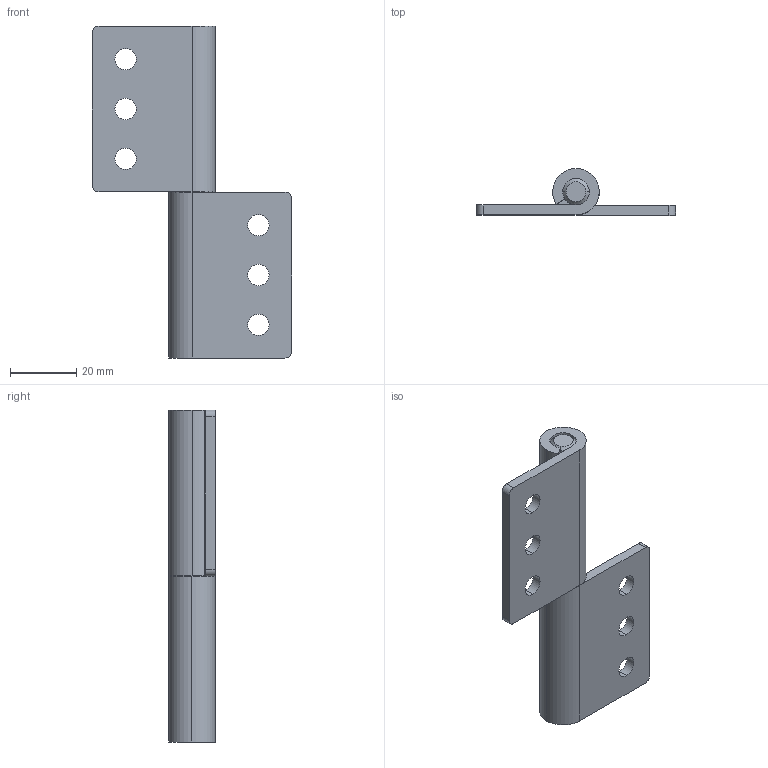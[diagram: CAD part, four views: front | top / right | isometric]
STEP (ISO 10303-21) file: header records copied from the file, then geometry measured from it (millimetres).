
FILE_DESCRIPTION (( 'STEP AP203' ), '1' );
FILE_NAME ('XG02-117.STEP', '2023-12-22T09:56:05', ( '' ), ( '' ), 'SwSTEP 2.0', 'SolidWorks 2020', '' );
FILE_SCHEMA (( 'CONFIG_CONTROL_DESIGN' ));
Length unit declared in the file: millimetre
Products named in the file (3): XG02-117; 种赽; XG02-117-01
Assembly tree (3 placements, depth 2):
  XG02-117
    种赽
    XG02-117-01  x2
Bounding box: 60 x 14 x 100 mm (x, y, z)
Volume: 22136.4 mm3; surface area: 15664.2 mm2
Topology: 3 solids, 3 shells, 48 faces, 122 edges, 80 vertices
Faces by surface type: cylinder 30, plane 14, cone 4
Entity records: 1185 total; most frequent: DIRECTION 172, CARTESIAN_POINT 146, ORIENTED_EDGE 136, AXIS2_PLACEMENT_3D 70, EDGE_CURVE 68, VERTEX_POINT 44, CIRCLE 36, EDGE_LOOP 34
